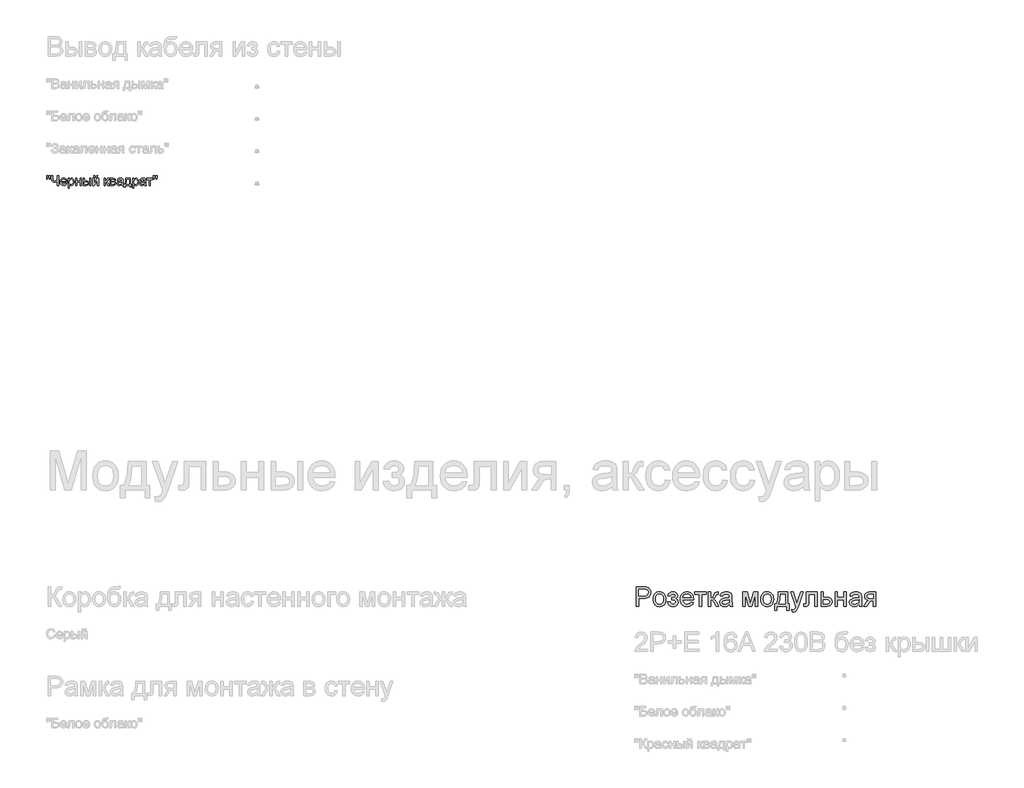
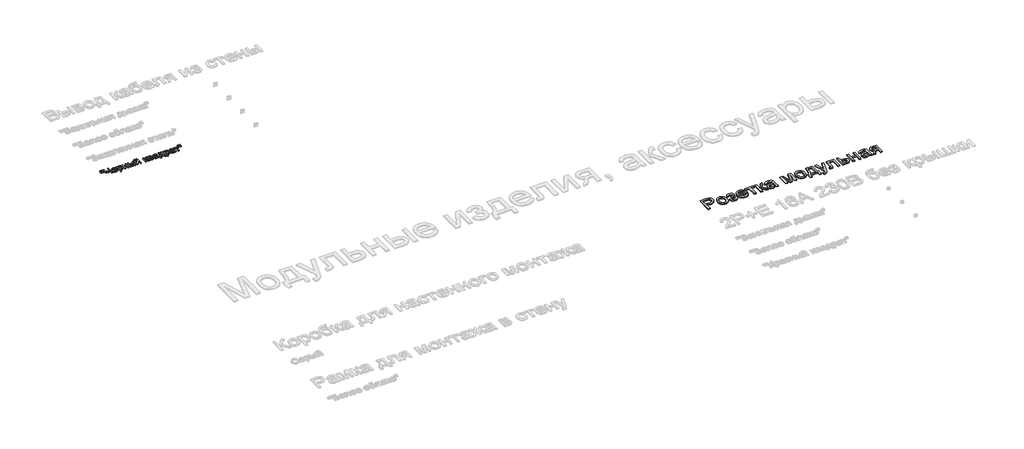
# One storey, part 97 of 168: 2 proxies.
"""IFC4 building model written with IfcOpenShell, lengths in millimetres."""

from ifc_helpers import new_model, si_unit, origin, origin_with_axes, place, context, project, spatial, polyline, outline, extrude, element, save

model = new_model("IFC4")

# Units and contexts
model_context = context("Model", 3, world=origin())
ifc_project = project(units=[si_unit("LENGTHUNIT", "METRE", prefix="MILLI")], contexts=[model_context])

# Site, building, storey
site = spatial("IfcSite", under=ifc_project)
building = spatial("IfcBuilding", under=site)
storey = spatial("IfcBuildingStorey", under=building, Name="Этаж 01", Elevation=0.0)

# Proxies
placement = place(None, origin())
element("IfcBuildingElementProxy", 1, Name="300 мм Arial 2", ObjectType="300 мм Arial 2", at=placement, inside=storey, context=model_context, shape_type="SweptSolid", body=[
    extrude(outline(polyline([(41999.0945017, -30966.8622977), (41999.0945017, -30665.4933673), (42110.7834754, -30665.4933673), (42155.8122316, -30668.3628468), (42175.8893915, -30673.7247269), (42192.4164901, -30682.4527273), (42205.7246213, -30694.942321), (42216.1448788, -30711.5889813), (42222.8771193, -30731.2246828), (42225.1211995, -30752.6814001), (42223.6059855, -30771.181266), (42219.0603436, -30788.2004068), (42211.4842738, -30803.7388225), (42200.877776, -30817.7965133), (42186.3165468, -30829.4491755), (42166.8762826, -30837.7725056), (42142.5569835, -30842.7665037), (42113.3586494, -30844.4311697), (42036.765618, -30844.4311697), (42036.765618, -30966.8622977), (41999.0945017, -30966.8622977)]), holes=[polyline([(42036.765618, -30806.7600534), (42115.5659413, -30806.7600534), (42148.9696265, -30803.3019627), (42171.0425462, -30792.9276904), (42183.3481989, -30776.2810301), (42187.4500832, -30754.0057753), (42185.0312591, -30737.0832035), (42177.7747867, -30722.8093821), (42166.581977, -30712.0672279), (42152.3541408, -30705.7396576), (42114.6830245, -30703.1644836), (42036.765618, -30703.1644836), (42036.765618, -30806.7600534)])]), origin_with_axes(), (0.0, 0.0, 1.0), 20.0),
    extrude(outline(polyline([(42262.7923158, -30856.2033936), (42264.8294623, -30827.5407876), (42270.940902, -30802.8421102), (42281.1266347, -30782.1073612), (42295.3866606, -30765.3365408), (42309.7432554, -30754.6173791), (42325.5897724, -30746.9608351), (42342.9262114, -30742.3669087), (42361.7525725, -30740.8355999), (42382.535606, -30742.7003018), (42401.3274781, -30748.2944073), (42418.128189, -30757.6179167), (42432.9377386, -30770.6708297), (42445.0249614, -30787.0116881), (42453.6586919, -30806.1990334), (42458.8389303, -30828.2328656), (42460.5656764, -30853.1131848), (42457.5122558, -30891.1705772), (42448.3519942, -30920.1412843), (42433.3516058, -30941.837125), (42412.7778052, -30958.069918), (42388.3412437, -30968.19587), (42361.7525725, -30971.5711873), (42340.6660364, -30969.7133832), (42321.6994203, -30964.139971), (42304.8527242, -30954.8509506), (42290.125948, -30941.8463221), (42278.1674839, -30925.3468146), (42269.6257239, -30905.5731573), (42264.5006678, -30882.5253503), (42262.7923158, -30856.2033936)]), holes=[polyline([(42300.4634321, -30856.1298172), (42304.8228337, -30890.2232811), (42317.9010387, -30914.5126898), (42337.5827254, -30929.0532257), (42361.7525725, -30933.900071), (42385.812055, -30929.0256345), (42405.4569535, -30914.4023252), (42418.5351585, -30889.7910197), (42422.8945601, -30854.9525948), (42418.5075673, -30821.8524123), (42405.3465889, -30797.8940973), (42385.6740992, -30783.3535615), (42361.7525725, -30778.5067162), (42337.5827254, -30783.3351674), (42317.9010387, -30797.820521), (42304.8228337, -30822.0547474), (42300.4634321, -30856.1298172)])]), origin_with_axes(), (0.0, 0.0, 1.0), 20.0),
    extrude(outline(polyline([(42554.7434672, -30867.9756174), (42554.7434672, -30830.3045011), (42584.4683324, -30828.8329731), (42599.4779178, -30820.9970866), (42604.7754185, -30813.6486438), (42606.5412521, -30804.6263379), (42604.1776103, -30793.9117748), (42597.0866848, -30785.6068387), (42586.2617571, -30780.2817468), (42572.6961085, -30778.5067162), (42558.9833072, -30780.2725498), (42547.4961919, -30785.5700505), (42538.2347626, -30794.3992184), (42531.1990195, -30806.7600534), (42488.8190136, -30802.0511639), (42500.0578086, -30775.2693546), (42517.1459273, -30756.1394909), (42540.0833697, -30744.6615726), (42568.8701358, -30740.8355999), (42600.3608346, -30745.4985042), (42624.1995879, -30759.4872171), (42639.2091733, -30779.950653), (42644.2123684, -30804.0377267), (42642.4327392, -30816.3985617), (42637.0938518, -30827.4350216), (42628.195706, -30837.1471062), (42615.738302, -30845.5348157), (42630.2788378, -30856.0010585), (42640.643913, -30869.005687), (42646.8519217, -30884.5854895), (42648.9212579, -30902.7772542), (42643.6697425, -30930.5063596), (42627.915196, -30952.4781117), (42602.7244764, -30966.7979184), (42569.1644414, -30971.5711873), (42536.3401704, -30967.1566033), (42511.2230271, -30953.9128515), (42493.8130117, -30931.8399318), (42484.1101241, -30900.9378442), (42526.4901299, -30896.2289547), (42532.8360944, -30912.1582451), (42543.4862781, -30924.0408335), (42557.2082765, -30931.4352616), (42572.7696849, -30933.900071), (42587.9264231, -30931.5364291), (42600.2872582, -30924.4455037), (42608.5094208, -30913.6757583), (42611.2501416, -30900.2756566), (42609.5486874, -30889.662261), (42604.4443247, -30880.4836053), (42589.9497741, -30869.8886038), (42562.1011071, -30867.7548882), (42554.7434672, -30867.9756174)])), origin_with_axes(), (0.0, 0.0, 1.0), 20.0),
    extrude(outline(polyline([(42850.9620497, -30900.9378442), (42887.897402, -30905.6467337), (42874.5892708, -30933.4770067), (42853.3532827, -30954.2807335), (42824.6676841, -30967.2485738), (42789.0107217, -30971.5711873), (42765.6364194, -30969.7064854), (42744.8097, -30964.1123798), (42726.5305633, -30954.7888705), (42710.7990095, -30941.7359575), (42698.1484674, -30925.3169242), (42689.1123659, -30905.8950541), (42683.690705, -30883.4703472), (42681.8834847, -30858.0428036), (42683.7090991, -30831.7530365), (42689.1859423, -30808.5810693), (42698.3140143, -30788.526902), (42711.0933151, -30771.5905347), (42726.7834822, -30758.1352507), (42744.6441531, -30748.5243336), (42764.6753277, -30742.7577833), (42786.8770061, -30740.8355999), (42808.3636139, -30742.7531848), (42827.794681, -30748.5059395), (42845.1702075, -30758.093864), (42860.4901934, -30771.5169583), (42872.9958819, -30788.4165374), (42881.9285166, -30808.4339165), (42887.2880975, -30831.5690955), (42889.0746244, -30857.8220744), (42888.8538952, -30867.9756174), (42719.554601, -30867.9756174), (42726.0753094, -30896.1737724), (42741.2228505, -30916.9039228), (42763.0842381, -30929.6510339), (42789.7464857, -30933.900071), (42809.7960544, -30931.9319023), (42826.681838, -30926.0273963), (42840.4038364, -30915.8186709), (42850.9620497, -30900.9378442)]), holes=[polyline([(42719.554601, -30830.3045011), (42851.4035081, -30830.3045011), (42846.3083425, -30810.4020852), (42836.3203463, -30796.165052), (42814.3577912, -30782.9213001), (42786.7298533, -30778.5067162), (42761.3367986, -30782.0291863), (42740.3399337, -30792.5965966), (42725.7442156, -30809.068513), (42719.554601, -30830.3045011)])]), origin_with_axes(), (0.0, 0.0, 1.0), 20.0),
    extrude(outline(polyline([(42907.9101825, -30745.5444894), (43086.847985, -30745.5444894), (43086.847985, -30783.2156057), (43016.2146419, -30783.2156057), (43016.2146419, -30966.8622977), (42978.5435256, -30966.8622977), (42978.5435256, -30783.2156057), (42907.9101825, -30783.2156057), (42907.9101825, -30745.5444894)])), origin_with_axes(), (0.0, 0.0, 1.0), 20.0),
    extrude(outline(polyline([(43119.8102118, -30745.5444894), (43157.4813281, -30745.5444894), (43157.4813281, -30839.7222802), (43172.8036132, -30838.030023), (43182.7180329, -30832.9532515), (43191.4920185, -30819.7094997), (43203.3930011, -30793.5163016), (43220.5730902, -30759.4872171), (43235.7298284, -30748.413969), (43263.2841899, -30745.5444894), (43270.494677, -30745.5444894), (43270.494677, -30783.4363349), (43260.3411339, -30783.2156057), (43241.9470342, -30787.1887313), (43228.9975879, -30811.9839778), (43213.8040615, -30838.8025752), (43192.503694, -30851.9359624), (43204.4414648, -30857.2380617), (43216.2688709, -30866.5960599), (43239.5925894, -30897.4797534), (43279.9124561, -30966.8622977), (43237.0909918, -30966.8622977), (43197.5804655, -30898.9512814), (43177.7148378, -30870.2196976), (43168.4258174, -30865.0049703), (43157.4813281, -30863.2667279), (43157.4813281, -30966.8622977), (43119.8102118, -30966.8622977), (43119.8102118, -30745.5444894)])), origin_with_axes(), (0.0, 0.0, 1.0), 20.0),
    extrude(outline(polyline([(43444.7235899, -30938.6089605), (43426.7249633, -30954.0416102), (43408.1929078, -30964.139971), (43388.7043591, -30969.7133832), (43367.8362529, -30971.5711873), (43336.3547512, -30967.101421), (43313.1322002, -30953.6921223), (43298.8123936, -30933.3298539), (43294.0391247, -30908.0011785), (43295.8417465, -30892.3845878), (43301.2496118, -30878.2027369), (43309.591336, -30866.0626311), (43320.1955345, -30856.5712756), (43346.5726736, -30844.2104405), (43379.1670184, -30838.5450578), (43417.6842633, -30832.5853695), (43444.5028607, -30825.5956116), (43444.7235899, -30817.2079021), (43442.1300218, -30800.3956949), (43434.3493176, -30789.3960233), (43416.9484993, -30781.229043), (43392.7050758, -30778.5067162), (43370.2642741, -30780.318535), (43354.5925011, -30785.7539915), (43343.9055291, -30795.806367), (43336.4191305, -30811.468943), (43298.7480142, -30806.7600534), (43305.2871167, -30786.1586617), (43315.0451866, -30769.9718539), (43328.9327319, -30757.5926248), (43347.8602606, -30748.413969), (43371.0092351, -30742.7301922), (43397.5611181, -30740.8355999), (43423.0277492, -30742.509463), (43443.2152737, -30747.5310522), (43458.4363913, -30755.0818302), (43469.0038016, -30764.3432594), (43476.0119536, -30775.7935865), (43480.5552962, -30789.9110581), (43482.3947062, -30822.8732848), (43482.3947062, -30869.741451), (43484.3076926, -30935.1876579), (43491.8124853, -30966.8622977), (43454.141369, -30966.8622977), (43444.7235899, -30938.6089605)]), holes=[polyline([(43444.7235899, -30863.2667279), (43383.9494843, -30874.8182225), (43351.5390805, -30880.9250637), (43336.8605889, -30890.8578775), (43331.710241, -30905.3524281), (43334.5153412, -30916.5544349), (43342.9306418, -30925.7330907), (43356.7722019, -30931.8583259), (43375.8560804, -30933.900071), (43396.0895901, -30931.6467937), (43413.9686551, -30924.8869621), (43428.4632057, -30914.9265571), (43438.5431724, -30903.0715598), (43443.0129386, -30890.8578775), (43444.5028607, -30873.9353058), (43444.7235899, -30863.2667279)])]), origin_with_axes(), (0.0, 0.0, 1.0), 20.0),
    extrude(outline(polyline([(43651.9147296, -30745.5444894), (43716.7355371, -30745.5444894), (43766.6939121, -30922.7164583), (43820.5518362, -30745.5444894), (43882.650317, -30745.5444894), (43882.650317, -30966.8622977), (43844.9792007, -30966.8622977), (43844.9792007, -30788.6602593), (43790.826971, -30966.8622977), (43741.3836308, -30966.8622977), (43689.5858459, -30780.125397), (43689.5858459, -30966.8622977), (43651.9147296, -30966.8622977), (43651.9147296, -30745.5444894)])), origin_with_axes(), (0.0, 0.0, 1.0), 20.0),
    extrude(outline(polyline([(43929.7392123, -30856.2033936), (43931.7763589, -30827.5407876), (43937.8877985, -30802.8421102), (43948.0735313, -30782.1073612), (43962.3335571, -30765.3365408), (43976.690152, -30754.6173791), (43992.5366689, -30746.9608351), (44009.8731079, -30742.3669087), (44028.699469, -30740.8355999), (44049.4825025, -30742.7003018), (44068.2743747, -30748.2944073), (44085.0750855, -30757.6179167), (44099.8846351, -30770.6708297), (44111.9718579, -30787.0116881), (44120.6055885, -30806.1990334), (44125.7858268, -30828.2328656), (44127.512573, -30853.1131848), (44124.4591524, -30891.1705772), (44115.2988907, -30920.1412843), (44100.2985024, -30941.837125), (44079.7247018, -30958.069918), (44055.2881402, -30968.19587), (44028.699469, -30971.5711873), (44007.6129329, -30969.7133832), (43988.6463168, -30964.139971), (43971.7996207, -30954.8509506), (43957.0728446, -30941.8463221), (43945.1143805, -30925.3468146), (43936.5726204, -30905.5731573), (43931.4475644, -30882.5253503), (43929.7392123, -30856.2033936)]), holes=[polyline([(43967.4103287, -30856.1298172), (43971.7697303, -30890.2232811), (43984.8479352, -30914.5126898), (44004.529622, -30929.0532257), (44028.699469, -30933.900071), (44052.7589515, -30929.0256345), (44072.4038501, -30914.4023252), (44085.482055, -30889.7910197), (44089.8414566, -30854.9525948), (44085.4544639, -30821.8524123), (44072.2934855, -30797.8940973), (44052.6209958, -30783.3535615), (44028.699469, -30778.5067162), (44004.529622, -30783.3351674), (43984.8479352, -30797.820521), (43971.7697303, -30822.0547474), (43967.4103287, -30856.1298172)])]), origin_with_axes(), (0.0, 0.0, 1.0), 20.0),
    extrude(outline(polyline([(44202.8548056, -30745.5444894), (44344.1214917, -30745.5444894), (44344.1214917, -30929.1911814), (44372.3748289, -30929.1911814), (44372.3748289, -31028.0778617), (44334.7037126, -31028.0778617), (44334.7037126, -30966.8622977), (44179.3103579, -30966.8622977), (44179.3103579, -31028.0778617), (44141.6392416, -31028.0778617), (44141.6392416, -30929.1911814), (44165.1836893, -30929.1911814), (44182.2993991, -30898.2615027), (44194.2831551, -30857.3438278), (44201.1349572, -30806.4381567), (44202.8548056, -30745.5444894)]), holes=[polyline([(44235.8170323, -30783.2156057), (44232.7268236, -30829.3388109), (44226.9878644, -30869.0424752), (44218.600155, -30902.3265987), (44207.5636951, -30929.1911814), (44306.4503754, -30929.1911814), (44306.4503754, -30783.2156057), (44235.8170323, -30783.2156057)])]), origin_with_axes(), (0.0, 0.0, 1.0), 20.0),
    extrude(outline(polyline([(44414.7548348, -31051.6223094), (44410.0459452, -31015.3491447), (44429.175809, -31018.6600827), (44447.054874, -31014.5030161), (44458.0177574, -31002.9147333), (44468.3184533, -30975.1764308), (44471.2615092, -30966.0529573), (44391.2103871, -30745.5444894), (44430.9416426, -30745.5444894), (44473.3952248, -30868.4170758), (44488.184081, -30917.5661104), (44502.9729372, -30874.1560349), (44546.6037419, -30745.5444894), (44586.0406917, -30745.5444894), (44509.006202, -30972.1597985), (44488.9934214, -31021.308833), (44478.7479078, -31036.9990001), (44467.1412309, -31047.8699131), (44453.6583558, -31054.2158775), (44437.7842477, -31056.331199), (44414.7548348, -31051.6223094)])), origin_with_axes(), (0.0, 0.0, 1.0), 20.0),
    extrude(outline(polyline([(44636.0726431, -30745.5444894), (44805.5926665, -30745.5444894), (44805.5926665, -30966.6415685), (44767.9215502, -30966.6415685), (44767.9215502, -30783.2156057), (44673.7437594, -30783.2156057), (44673.7437594, -30888.7977384), (44671.2053736, -30937.5053145), (44666.4504988, -30948.5325773), (44657.262646, -30958.069918), (44643.3199184, -30964.6642028), (44624.3004192, -30966.8622977), (44593.6926372, -30964.9493114), (44593.6926372, -30929.1911814), (44610.5416326, -30929.1911814), (44627.574569, -30926.8735249), (44634.3803859, -30919.515885), (44636.0726431, -30886.6640228), (44636.0726431, -30745.5444894)])), origin_with_axes(), (0.0, 0.0, 1.0), 20.0),
    extrude(outline(polyline([(44862.0993409, -30745.5444894), (44899.7704572, -30745.5444894), (44899.7704572, -30825.5956116), (44943.1805327, -30825.5956116), (44980.8148608, -30830.3136982), (44995.9624019, -30836.2113064), (45008.6635278, -30844.4679579), (45018.7067063, -30854.7985442), (45025.8804052, -30866.9179567), (45031.6193643, -30896.5232603), (45026.7357308, -30923.4798135), (45012.0848304, -30946.2241178), (45000.8529332, -30955.2533215), (44986.6917756, -30961.7027528), (44949.5816794, -30966.8622977), (44862.0993409, -30966.8622977), (44862.0993409, -30745.5444894)]), holes=[polyline([(44899.7704572, -30929.1911814), (44934.939976, -30929.1911814), (44962.227623, -30927.2138157), (44980.3734024, -30921.2817185), (44990.5545366, -30911.1557666), (44993.948248, -30896.5968367), (44991.4374534, -30884.2911839), (44983.9050695, -30873.420271), (44967.764247, -30865.8051137), (44939.4281363, -30863.2667279), (44899.7704572, -30863.2667279), (44899.7704572, -30929.1911814)])]), origin_with_axes(), (0.0, 0.0, 1.0), 20.0),
    extrude(outline(polyline([(45078.7082597, -30745.5444894), (45116.379376, -30745.5444894), (45116.379376, -30830.3045011), (45215.2660563, -30830.3045011), (45215.2660563, -30745.5444894), (45252.9371726, -30745.5444894), (45252.9371726, -30966.8622977), (45215.2660563, -30966.8622977), (45215.2660563, -30867.9756174), (45116.379376, -30867.9756174), (45116.379376, -30966.8622977), (45078.7082597, -30966.8622977), (45078.7082597, -30745.5444894)])), origin_with_axes(), (0.0, 0.0, 1.0), 20.0),
    extrude(outline(polyline([(45450.7105332, -30938.6089605), (45432.7119066, -30954.0416102), (45414.1798511, -30964.139971), (45394.6913024, -30969.7133832), (45373.8231962, -30971.5711873), (45342.3416945, -30967.101421), (45319.1191435, -30953.6921223), (45304.7993369, -30933.3298539), (45300.026068, -30908.0011785), (45301.8286898, -30892.3845878), (45307.2365551, -30878.2027369), (45315.5782793, -30866.0626311), (45326.1824778, -30856.5712756), (45352.5596169, -30844.2104405), (45385.1539617, -30838.5450578), (45423.6712066, -30832.5853695), (45450.489804, -30825.5956116), (45450.7105332, -30817.2079021), (45448.1169651, -30800.3956949), (45440.3362609, -30789.3960233), (45422.9354426, -30781.229043), (45398.6920191, -30778.5067162), (45376.2512174, -30780.318535), (45360.5794444, -30785.7539915), (45349.8924724, -30795.806367), (45342.4060738, -30811.468943), (45304.7349575, -30806.7600534), (45311.27406, -30786.1586617), (45321.0321299, -30769.9718539), (45334.9196752, -30757.5926248), (45353.8472039, -30748.413969), (45376.9961784, -30742.7301922), (45403.5480614, -30740.8355999), (45429.0146925, -30742.509463), (45449.202217, -30747.5310522), (45464.4233346, -30755.0818302), (45474.9907449, -30764.3432594), (45481.9988969, -30775.7935865), (45486.5422395, -30789.9110581), (45488.3816495, -30822.8732848), (45488.3816495, -30869.741451), (45490.2946359, -30935.1876579), (45497.7994286, -30966.8622977), (45460.1283123, -30966.8622977), (45450.7105332, -30938.6089605)]), holes=[polyline([(45450.7105332, -30863.2667279), (45389.9364276, -30874.8182225), (45357.5260238, -30880.9250637), (45342.8475322, -30890.8578775), (45337.6971843, -30905.3524281), (45340.5022845, -30916.5544349), (45348.9175851, -30925.7330907), (45362.7591452, -30931.8583259), (45381.8430237, -30933.900071), (45402.0765334, -30931.6467937), (45419.9555984, -30924.8869621), (45434.450149, -30914.9265571), (45444.5301157, -30903.0715598), (45448.9998819, -30890.8578775), (45450.489804, -30873.9353058), (45450.7105332, -30863.2667279)])]), origin_with_axes(), (0.0, 0.0, 1.0), 20.0),
    extrude(outline(polyline([(45709.6994578, -30745.5444894), (45709.6994578, -30966.8622977), (45672.0283415, -30966.8622977), (45672.0283415, -30882.102286), (45651.5005262, -30882.102286), (45623.5414945, -30886.884752), (45612.376276, -30897.3142065), (45597.2747201, -30919.0376384), (45567.2555493, -30966.8622977), (45523.698321, -30966.8622977), (45561.5165902, -30906.3824977), (45578.2184327, -30884.67746), (45593.5959001, -30875.0389517), (45567.8441605, -30867.1478829), (45549.7443663, -30852.1566916), (45539.0390002, -30832.2174875), (45535.4705449, -30809.4823802), (45540.3449813, -30783.6938523), (45554.9682906, -30763.2764016), (45578.825438, -30749.9774675), (45611.4013887, -30745.5444894), (45709.6994578, -30745.5444894)]), holes=[polyline([(45672.0283415, -30783.2156057), (45622.3642722, -30783.2156057), (45596.7137, -30785.3953066), (45582.1547701, -30791.934409), (45575.3949384, -30801.3981734), (45573.1416612, -30812.3518598), (45576.4617962, -30826.7084546), (45586.4222012, -30836.6688596), (45604.825498, -30842.4905922), (45633.4743084, -30844.4311697), (45672.0283415, -30844.4311697), (45672.0283415, -30783.2156057)])]), origin_with_axes(), (0.0, 0.0, 1.0), 20.0),
])
element("IfcBuildingElementProxy", 2, Name="150", ObjectType="150", at=placement, inside=storey, context=model_context, shape_type="SweptSolid", body=[
    extrude(outline(polyline([(32880.1485789, -24351.873446), (32875.550054, -24322.7739802), (32875.550054, -24297.7212163), (32894.3856121, -24297.7212163), (32894.3856121, -24322.7739802), (32890.2653338, -24351.873446), (32880.1485789, -24351.873446)])), origin_with_axes(), (0.0, 0.0, 1.0), 20.0),
    extrude(outline(polyline([(32917.7093306, -24351.873446), (32913.2211703, -24322.7739802), (32913.2211703, -24297.7212163), (32932.0567284, -24297.7212163), (32932.0567284, -24322.7739802), (32927.6421445, -24351.873446), (32917.7093306, -24351.873446)])), origin_with_axes(), (0.0, 0.0, 1.0), 20.0),
    extrude(outline(polyline([(33063.9056355, -24448.4056816), (33045.0700773, -24448.4056816), (33045.0700773, -24388.0730344), (33020.0908899, -24396.2400147), (32998.4226404, -24398.9623414), (32983.7395502, -24397.0999388), (32970.886673, -24391.512731), (32960.926268, -24383.0606422), (32954.9205944, -24372.6035965), (32950.8922866, -24342.6028198), (32950.8922866, -24297.7212163), (32969.7278447, -24297.7212163), (32969.7278447, -24340.064434), (32971.990319, -24360.4313009), (32978.7777418, -24372.3828673), (32988.7381468, -24378.1908043), (33000.5195677, -24380.1267833), (33022.2521966, -24377.7907326), (33045.0700773, -24370.7825806), (33045.0700773, -24297.7212163), (33063.9056355, -24297.7212163), (33063.9056355, -24448.4056816)])), origin_with_axes(), (0.0, 0.0, 1.0), 20.0),
    extrude(outline(polyline([(33171.9893657, -24415.4434548), (33190.4570418, -24417.7978996), (33183.8029763, -24431.713036), (33173.1849822, -24442.1148995), (33158.8421829, -24448.5988196), (33141.0137017, -24450.7601263), (33118.9131908, -24447.0307226), (33101.9078456, -24435.8425114), (33091.0645238, -24417.9220597), (33087.4500832, -24393.9959345), (33091.101312, -24369.2650674), (33102.0549984, -24350.7698), (33118.8304174, -24339.2366995), (33139.9468439, -24335.3923327), (33160.4056814, -24339.2275025), (33176.7534375, -24350.7330118), (33187.4725992, -24369.191491), (33191.045653, -24393.8855699), (33190.9352884, -24398.9623414), (33106.2856413, -24398.9623414), (33109.5459955, -24413.0614189), (33117.1197661, -24423.4264941), (33128.0504599, -24429.8000497), (33141.3815837, -24431.9245682), (33159.8492598, -24427.9882308), (33171.9893657, -24415.4434548)]), holes=[polyline([(33106.2856413, -24380.1267833), (33172.2100949, -24380.1267833), (33169.6625121, -24370.1755753), (33164.668514, -24363.0570587), (33153.6872364, -24356.4351828), (33139.8732675, -24354.2278908), (33127.1767401, -24355.9891259), (33116.6783077, -24361.272831), (33109.3804486, -24369.5087892), (33106.2856413, -24380.1267833)])]), origin_with_axes(), (0.0, 0.0, 1.0), 20.0),
    extrude(outline(polyline([(33209.8812112, -24490.7856874), (33209.8812112, -24337.7467774), (33228.7167693, -24337.7467774), (33228.7167693, -24356.2144536), (33241.739792, -24340.5978629), (33259.3245513, -24335.3923327), (33272.0624654, -24337.2133485), (33283.2000928, -24342.6763962), (33292.268384, -24351.4503817), (33298.7982894, -24363.2042115), (33304.0590019, -24392.2301009), (33302.5736784, -24408.3387338), (33298.1177077, -24422.7459124), (33290.8336442, -24434.7204713), (33280.8640422, -24443.5312451), (33269.2527667, -24448.952906), (33257.043683, -24450.7601263), (33240.6545401, -24445.9224781), (33228.7167693, -24433.6904018), (33228.7167693, -24490.7856874), (33209.8812112, -24490.7856874)]), holes=[polyline([(33228.7167693, -24393.9591463), (33230.7539159, -24410.8449299), (33236.8653555, -24422.6539419), (33245.8830629, -24429.6069116), (33256.6390128, -24431.9245682), (33267.5697066, -24429.5241382), (33276.8173402, -24422.3228481), (33283.1219179, -24410.0815747), (33285.2234438, -24392.5611947), (33283.1725017, -24375.7673816), (33277.0196753, -24363.7928227), (33268.0157635, -24356.6191238), (33257.411565, -24354.2278908), (33246.7659797, -24356.7708751), (33237.4171785, -24364.399828), (33230.8918716, -24376.8756261), (33228.7167693, -24393.9591463)])]), origin_with_axes(), (0.0, 0.0, 1.0), 20.0),
    extrude(outline(polyline([(33325.2490049, -24337.7467774), (33344.084563, -24337.7467774), (33344.084563, -24380.1267833), (33393.5279032, -24380.1267833), (33393.5279032, -24337.7467774), (33412.3634613, -24337.7467774), (33412.3634613, -24448.4056816), (33393.5279032, -24448.4056816), (33393.5279032, -24398.9623414), (33344.084563, -24398.9623414), (33344.084563, -24448.4056816), (33325.2490049, -24448.4056816), (33325.2490049, -24337.7467774)])), origin_with_axes(), (0.0, 0.0, 1.0), 20.0),
    extrude(outline(polyline([(33544.2123684, -24337.7467774), (33563.0479266, -24337.7467774), (33563.0479266, -24448.4056816), (33544.2123684, -24448.4056816), (33544.2123684, -24337.7467774)])), origin_with_axes(), (0.0, 0.0, 1.0), 20.0),
    extrude(outline(polyline([(33440.6167986, -24337.7467774), (33459.4523567, -24337.7467774), (33459.4523567, -24377.7723385), (33482.739287, -24377.7723385), (33502.8670307, -24380.1313818), (33517.780047, -24387.2085117), (33527.0092866, -24398.433511), (33530.0856998, -24413.2361628), (33527.5059273, -24426.7144394), (33519.7666098, -24438.0865916), (33506.3619096, -24445.8259091), (33486.785989, -24448.4056816), (33440.6167986, -24448.4056816), (33440.6167986, -24337.7467774)]), holes=[polyline([(33459.4523567, -24429.5701234), (33478.8029497, -24429.5701234), (33503.7821371, -24425.615392), (33509.3831405, -24420.552416), (33511.2501416, -24413.272951), (33505.7135176, -24401.6846682), (33496.8337659, -24397.8770895), (33481.267759, -24396.6078966), (33459.4523567, -24396.6078966), (33459.4523567, -24429.5701234)])]), origin_with_axes(), (0.0, 0.0, 1.0), 20.0),
    extrude(outline(polyline([(33591.3012638, -24337.7467774), (33610.1368219, -24337.7467774), (33610.1368219, -24422.1389071), (33656.4163769, -24337.7467774), (33680.770165, -24337.7467774), (33680.770165, -24448.4056816), (33661.9346069, -24448.4056816), (33661.9346069, -24364.5285867), (33615.9493575, -24448.4056816), (33591.3012638, -24448.4056816), (33591.3012638, -24337.7467774)])), origin_with_axes(), (0.0, 0.0, 1.0), 20.0),
    extrude(outline(polyline([(33652.5168278, -24297.7212163), (33666.6434964, -24297.7212163), (33663.6038714, -24309.7831473), (33657.5016288, -24318.672096), (33648.6126801, -24324.1489392), (33637.2129368, -24325.9745536), (33624.8429047, -24324.1627347), (33615.2503817, -24318.7272783), (33608.6928851, -24309.8521251), (33605.4279324, -24297.7212163), (33619.554601, -24297.7212163), (33624.8521017, -24308.3346119), (33635.5206796, -24311.847885), (33647.219327, -24308.4449765), (33652.5168278, -24297.7212163)])), origin_with_axes(), (0.0, 0.0, 1.0), 20.0),
    extrude(outline(polyline([(33767.8846215, -24337.7467774), (33786.7201796, -24337.7467774), (33786.7201796, -24384.8356728), (33799.3385321, -24381.4511584), (33809.6760161, -24361.7326835), (33818.2660607, -24344.7181412), (33825.8444298, -24339.1815172), (33839.6216105, -24337.7467774), (33843.2268541, -24337.7467774), (33843.2268541, -24356.6927002), (33838.1500825, -24356.5823356), (33828.9530327, -24358.5688983), (33822.4783096, -24370.9665216), (33814.8815464, -24384.3758203), (33804.2313626, -24390.9425139), (33816.113951, -24398.2725627), (33827.7758103, -24413.7144094), (33847.9357436, -24448.4056816), (33826.5250115, -24448.4056816), (33806.7697484, -24414.4501734), (33796.8369345, -24400.0843815), (33786.7201796, -24396.6078966), (33786.7201796, -24448.4056816), (33767.8846215, -24448.4056816), (33767.8846215, -24337.7467774)])), origin_with_axes(), (0.0, 0.0, 1.0), 20.0),
    extrude(outline(polyline([(33859.7079675, -24337.7467774), (33901.2050565, -24337.7467774), (33923.9585579, -24340.2667691), (33936.7608514, -24349.5006072), (33942.1135344, -24365.5954445), (33938.8761728, -24378.6736494), (33929.1273, -24387.999458), (33941.7824406, -24398.2081833), (33946.8224239, -24415.9584896), (33943.6310476, -24430.3150845), (33936.0434815, -24440.4226423), (33924.0321343, -24446.4099217), (33907.569415, -24448.4056816), (33859.7079675, -24448.4056816), (33859.7079675, -24337.7467774)]), holes=[polyline([(33878.5435256, -24380.1267833), (33897.1583546, -24380.1267833), (33912.5174279, -24379.1702901), (33919.9854324, -24375.3443173), (33923.2779762, -24368.4281358), (33921.8340394, -24362.8087383), (33917.5022289, -24359.1942977), (33897.7469658, -24356.5823356), (33878.5435256, -24356.5823356), (33878.5435256, -24380.1267833)]), polyline([(33878.5435256, -24429.5701234), (33901.6465149, -24429.5701234), (33922.137542, -24426.167215), (33926.377382, -24421.5273033), (33927.9868658, -24414.4133852), (33924.7678983, -24405.345094), (33916.3801888, -24400.0659874), (33899.8071049, -24398.9623414), (33878.5435256, -24398.9623414), (33878.5435256, -24429.5701234)])]), origin_with_axes(), (0.0, 0.0, 1.0), 20.0),
    extrude(outline(polyline([(34041.0002147, -24434.279013), (34022.7348736, -24447.0445182), (34002.5565462, -24450.7601263), (33986.8157953, -24448.5252432), (33975.2045198, -24441.8205939), (33968.0446165, -24431.6394596), (33965.6579821, -24418.975122), (33969.2632256, -24404.0759012), (33978.736187, -24393.2601705), (33991.9247565, -24387.079753), (34008.2219289, -24384.2470616), (34040.8898501, -24377.7723385), (34041.0002147, -24373.5784838), (34039.7034307, -24365.1723802), (34035.8130786, -24359.6725443), (34027.1126694, -24355.5890542), (34014.9909576, -24354.2278908), (33995.9346703, -24357.8515285), (33986.847985, -24370.7090042), (33968.0124268, -24368.3545594), (33976.161013, -24349.9604597), (33992.56855, -24339.1815172), (34017.4189788, -24335.3923327), (34040.2460566, -24338.7400588), (34053.1403205, -24347.1461624), (34058.9160679, -24359.9300617), (34059.8357728, -24376.4111751), (34059.8357728, -24399.8452582), (34060.792266, -24432.5683617), (34064.5446624, -24448.4056816), (34045.7091042, -24448.4056816), (34041.0002147, -24434.279013)]), holes=[polyline([(34041.0002147, -24396.6078966), (34010.6131619, -24402.383644), (33994.40796, -24405.4370645), (33987.0687142, -24410.4034715), (33984.4935402, -24417.6507468), (33990.1037407, -24427.841078), (34006.5664599, -24431.9245682), (34025.6227473, -24427.4180137), (34037.9100059, -24416.5103126), (34040.8898501, -24401.9421856), (34041.0002147, -24396.6078966)])]), origin_with_axes(), (0.0, 0.0, 1.0), 20.0),
    extrude(outline(polyline([(34102.2157787, -24337.7467774), (34172.8491218, -24337.7467774), (34172.8491218, -24429.5701234), (34186.9757904, -24429.5701234), (34186.9757904, -24479.0134636), (34168.1402322, -24479.0134636), (34168.1402322, -24448.4056816), (34090.4435548, -24448.4056816), (34090.4435548, -24479.0134636), (34071.6079967, -24479.0134636), (34071.6079967, -24429.5701234), (34083.3802205, -24429.5701234), (34091.9380754, -24414.105284), (34097.9299534, -24393.6464466), (34102.2157787, -24337.7467774)]), holes=[polyline([(34118.6968921, -24356.5823356), (34114.2823081, -24399.4957703), (34104.5702235, -24429.5701234), (34154.0135636, -24429.5701234), (34154.0135636, -24356.5823356), (34118.6968921, -24356.5823356)])]), origin_with_axes(), (0.0, 0.0, 1.0), 20.0),
    extrude(outline(polyline([(34208.1657933, -24490.7856874), (34208.1657933, -24337.7467774), (34227.0013514, -24337.7467774), (34227.0013514, -24356.2144536), (34240.0243741, -24340.5978629), (34257.6091334, -24335.3923327), (34270.3470475, -24337.2133485), (34281.4846749, -24342.6763962), (34290.5529661, -24351.4503817), (34297.0828715, -24363.2042115), (34302.3435841, -24392.2301009), (34300.8582605, -24408.3387338), (34296.4022898, -24422.7459124), (34289.1182263, -24434.7204713), (34279.1486243, -24443.5312451), (34267.5373488, -24448.952906), (34255.3282651, -24450.7601263), (34238.9391222, -24445.9224781), (34227.0013514, -24433.6904018), (34227.0013514, -24490.7856874), (34208.1657933, -24490.7856874)]), holes=[polyline([(34227.0013514, -24393.9591463), (34229.038498, -24410.8449299), (34235.1499376, -24422.6539419), (34244.167645, -24429.6069116), (34254.9235949, -24431.9245682), (34265.8542887, -24429.5241382), (34275.1019223, -24422.3228481), (34281.4065, -24410.0815747), (34283.5080259, -24392.5611947), (34281.4570838, -24375.7673816), (34275.3042574, -24363.7928227), (34266.3003456, -24356.6191238), (34255.6961471, -24354.2278908), (34245.0505618, -24356.7708751), (34235.7017606, -24364.399828), (34229.1764537, -24376.8756261), (34227.0013514, -24393.9591463)])]), origin_with_axes(), (0.0, 0.0, 1.0), 20.0),
    extrude(outline(polyline([(34394.1669301, -24434.279013), (34375.901589, -24447.0445182), (34355.7232616, -24450.7601263), (34339.9825107, -24448.5252432), (34328.3712352, -24441.8205939), (34321.2113319, -24431.6394596), (34318.8246974, -24418.975122), (34322.429941, -24404.0759012), (34331.9029024, -24393.2601705), (34345.0914719, -24387.079753), (34361.3886443, -24384.2470616), (34394.0565655, -24377.7723385), (34394.1669301, -24373.5784838), (34392.870146, -24365.1723802), (34388.9797939, -24359.6725443), (34380.2793847, -24355.5890542), (34368.157673, -24354.2278908), (34349.1013856, -24357.8515285), (34340.0147004, -24370.7090042), (34321.1791422, -24368.3545594), (34329.3277284, -24349.9604597), (34345.7352654, -24339.1815172), (34370.5856942, -24335.3923327), (34393.412772, -24338.7400588), (34406.3070359, -24347.1461624), (34412.0827832, -24359.9300617), (34413.0024882, -24376.4111751), (34413.0024882, -24399.8452582), (34413.9589814, -24432.5683617), (34417.7113777, -24448.4056816), (34398.8758196, -24448.4056816), (34394.1669301, -24434.279013)]), holes=[polyline([(34394.1669301, -24396.6078966), (34363.7798773, -24402.383644), (34347.5746754, -24405.4370645), (34340.2354296, -24410.4034715), (34337.6602556, -24417.6507468), (34343.270456, -24427.841078), (34359.7331753, -24431.9245682), (34378.7894627, -24427.4180137), (34391.0767213, -24416.5103126), (34394.0565655, -24401.9421856), (34394.1669301, -24396.6078966)])]), origin_with_axes(), (0.0, 0.0, 1.0), 20.0),
    extrude(outline(polyline([(34429.4836016, -24337.7467774), (34518.9525028, -24337.7467774), (34518.9525028, -24356.5823356), (34483.6358313, -24356.5823356), (34483.6358313, -24448.4056816), (34464.8002731, -24448.4056816), (34464.8002731, -24356.5823356), (34429.4836016, -24356.5823356), (34429.4836016, -24337.7467774)])), origin_with_axes(), (0.0, 0.0, 1.0), 20.0),
    extrude(outline(polyline([(34535.3232516, -24351.873446), (34530.7247267, -24322.7739802), (34530.7247267, -24297.7212163), (34549.5602848, -24297.7212163), (34549.5602848, -24322.7739802), (34545.4400065, -24351.873446), (34535.3232516, -24351.873446)])), origin_with_axes(), (0.0, 0.0, 1.0), 20.0),
    extrude(outline(polyline([(34572.8840033, -24351.873446), (34568.395843, -24322.7739802), (34568.395843, -24297.7212163), (34587.2314011, -24297.7212163), (34587.2314011, -24322.7739802), (34582.8168172, -24351.873446), (34572.8840033, -24351.873446)])), origin_with_axes(), (0.0, 0.0, 1.0), 20.0),
])

save(model, "model.ifc")
